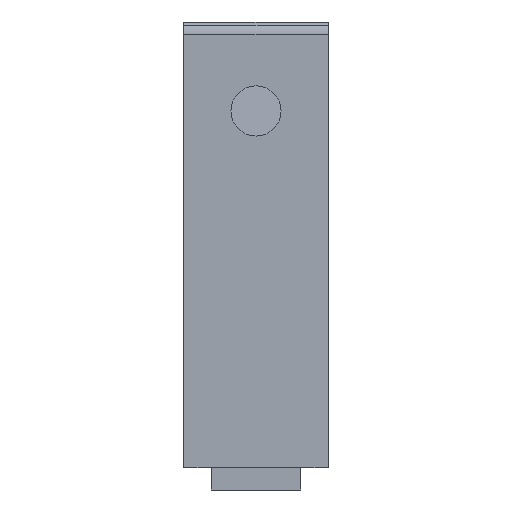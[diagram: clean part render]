
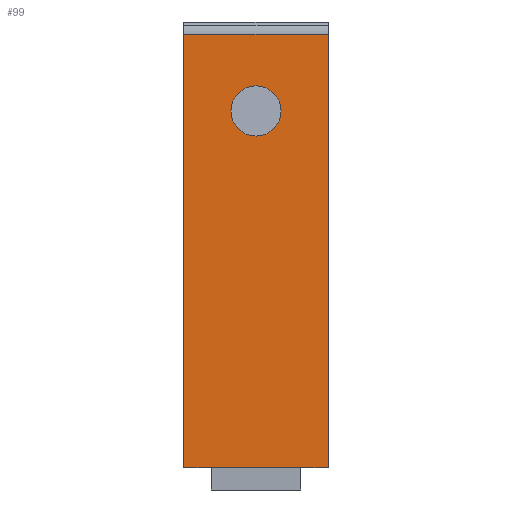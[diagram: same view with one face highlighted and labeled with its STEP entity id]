
A CAD part, left-side view. The second image highlights one B-rep face of the part: STEP entity #99.
In plain terms, the highlighted planar face has unit normal (-1, 0, 0).
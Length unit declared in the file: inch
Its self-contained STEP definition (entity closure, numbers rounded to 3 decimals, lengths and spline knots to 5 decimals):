
#99=ADVANCED_FACE('',(#226,#227),#228,.T.);
#226=FACE_BOUND('',#409,.T.);
#227=FACE_OUTER_BOUND('',#410,.T.);
#228=PLANE('',#411);
#409=EDGE_LOOP('',(#762,#763,#764,#765));
#410=EDGE_LOOP('',(#766,#767,#768,#769,#770,#771));
#411=AXIS2_PLACEMENT_3D('',#772,#773,#774);
#762=ORIENTED_EDGE('',*,*,#1080,.F.);
#763=ORIENTED_EDGE('',*,*,#1081,.F.);
#764=ORIENTED_EDGE('',*,*,#1082,.F.);
#765=ORIENTED_EDGE('',*,*,#1066,.F.);
#766=ORIENTED_EDGE('',*,*,#1060,.F.);
#767=ORIENTED_EDGE('',*,*,#1083,.F.);
#768=ORIENTED_EDGE('',*,*,#1084,.F.);
#769=ORIENTED_EDGE('',*,*,#1085,.F.);
#770=ORIENTED_EDGE('',*,*,#1007,.F.);
#771=ORIENTED_EDGE('',*,*,#1086,.F.);
#772=CARTESIAN_POINT('',(-0.0625,0.40625,1.25));
#773=DIRECTION('',(-1.0,0.0,0.0));
#774=DIRECTION('',(0.0,-1.0,0.0));
#1007=EDGE_CURVE('',#1194,#1190,#1196,.T.);
#1060=EDGE_CURVE('',#1283,#1285,#1286,.T.);
#1066=EDGE_CURVE('',#1292,#1293,#1294,.T.);
#1080=EDGE_CURVE('',#1312,#1292,#1313,.T.);
#1081=EDGE_CURVE('',#1314,#1312,#1315,.T.);
#1082=EDGE_CURVE('',#1293,#1314,#1316,.T.);
#1083=EDGE_CURVE('',#1317,#1283,#1318,.T.);
#1084=EDGE_CURVE('',#1319,#1317,#1320,.T.);
#1085=EDGE_CURVE('',#1190,#1319,#1321,.T.);
#1086=EDGE_CURVE('',#1285,#1194,#1322,.T.);
#1190=VERTEX_POINT('',#1481);
#1194=VERTEX_POINT('',#1487);
#1196=LINE('',#1490,#1491);
#1283=VERTEX_POINT('',#1648);
#1285=VERTEX_POINT('',#1650);
#1286=LINE('',#1651,#1652);
#1292=VERTEX_POINT('',#1660);
#1293=VERTEX_POINT('',#1661);
#1294=B_SPLINE_CURVE_WITH_KNOTS('',3,(#1662,#1663,#1664,#1665),.UNSPECIFIED.,.F.,.F.,(4,4),(-1.0,-0.0),.UNSPECIFIED.);
#1312=VERTEX_POINT('',#1694);
#1313=B_SPLINE_CURVE_WITH_KNOTS('',3,(#1695,#1696,#1697,#1698),.UNSPECIFIED.,.F.,.F.,(4,4),(-1.0,-0.0),.UNSPECIFIED.);
#1314=VERTEX_POINT('',#1699);
#1315=B_SPLINE_CURVE_WITH_KNOTS('',3,(#1700,#1701,#1702,#1703),.UNSPECIFIED.,.F.,.F.,(4,4),(-1.0,-0.0),.UNSPECIFIED.);
#1316=B_SPLINE_CURVE_WITH_KNOTS('',3,(#1704,#1705,#1706,#1707),.UNSPECIFIED.,.F.,.F.,(4,4),(-1.0,-0.0),.UNSPECIFIED.);
#1317=VERTEX_POINT('',#1708);
#1318=LINE('',#1709,#1710);
#1319=VERTEX_POINT('',#1711);
#1320=LINE('',#1712,#1713);
#1321=LINE('',#1714,#1715);
#1322=LINE('',#1716,#1717);
#1481=CARTESIAN_POINT('',(-0.0625,0.15625,0.0));
#1487=CARTESIAN_POINT('',(-0.0625,0.,0.));
#1490=CARTESIAN_POINT('',(-0.0625,0.,0.));
#1491=VECTOR('',#1854,1.);
#1648=CARTESIAN_POINT('',(-0.0625,0.8125,2.43001));
#1650=CARTESIAN_POINT('',(-0.0625,0.,2.43001));
#1651=CARTESIAN_POINT('',(-0.0625,0.40625,2.43001));
#1652=VECTOR('',#1892,1.);
#1660=CARTESIAN_POINT('',(-0.0625,0.5469,2.00092));
#1661=CARTESIAN_POINT('',(-0.0625,0.40624,1.8603));
#1662=CARTESIAN_POINT('',(-0.0625,0.5469,2.00092));
#1663=CARTESIAN_POINT('',(-0.0625,0.5469,1.92326));
#1664=CARTESIAN_POINT('',(-0.0625,0.48393,1.8603));
#1665=CARTESIAN_POINT('',(-0.0625,0.40624,1.8603));
#1694=CARTESIAN_POINT('',(-0.0625,0.40624,2.14155));
#1695=CARTESIAN_POINT('',(-0.0625,0.40624,2.14155));
#1696=CARTESIAN_POINT('',(-0.0625,0.48393,2.14155));
#1697=CARTESIAN_POINT('',(-0.0625,0.5469,2.07859));
#1698=CARTESIAN_POINT('',(-0.0625,0.5469,2.00092));
#1699=CARTESIAN_POINT('',(-0.0625,0.2656,2.00092));
#1700=CARTESIAN_POINT('',(-0.0625,0.2656,2.00092));
#1701=CARTESIAN_POINT('',(-0.0625,0.2656,2.07859));
#1702=CARTESIAN_POINT('',(-0.0625,0.32857,2.14155));
#1703=CARTESIAN_POINT('',(-0.0625,0.40624,2.14155));
#1704=CARTESIAN_POINT('',(-0.0625,0.40624,1.8603));
#1705=CARTESIAN_POINT('',(-0.0625,0.32857,1.8603));
#1706=CARTESIAN_POINT('',(-0.0625,0.2656,1.92326));
#1707=CARTESIAN_POINT('',(-0.0625,0.2656,2.00092));
#1708=CARTESIAN_POINT('',(-0.0625,0.8125,0.));
#1709=CARTESIAN_POINT('',(-0.0625,0.8125,0.));
#1710=VECTOR('',#1906,1.0);
#1711=CARTESIAN_POINT('',(-0.0625,0.65625,0.0));
#1712=CARTESIAN_POINT('',(-0.0625,0.,0.));
#1713=VECTOR('',#1907,1.);
#1714=CARTESIAN_POINT('',(-0.0625,0.53125,0.0));
#1715=VECTOR('',#1908,1.);
#1716=CARTESIAN_POINT('',(-0.0625,0.,2.50001));
#1717=VECTOR('',#1909,1.0);
#1854=DIRECTION('',(0.0,1.0,0.0));
#1892=DIRECTION('',(0.0,-1.0,0.0));
#1906=DIRECTION('',(0.0,0.0,1.0));
#1907=DIRECTION('',(0.0,1.0,0.0));
#1908=DIRECTION('',(0.0,1.0,0.0));
#1909=DIRECTION('',(0.0,0.0,-1.0));
